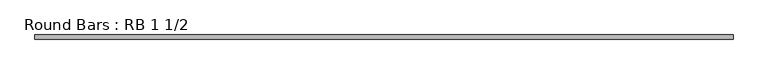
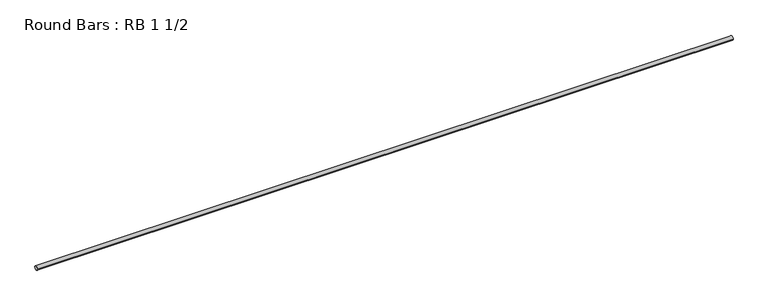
"""IFC4 building model written with IfcOpenShell, lengths in millimetres: member geometry, Round Bars : RB 1 1/2."""

from ifc_helpers import new_model, si_unit, point, frame, origin, origin_2d, place, context, project, spatial, circle_curve, trimmed, segment, composite_curve, outline, extrude, source, transform, mapped, element, save


def round_bars_rb_1_1_2_32fb0a82(model_context):
    return source(origin(), model_context, "Body", "SweptSolid", [
        extrude(outline(composite_curve([segment(trimmed(circle_curve(origin_2d(), 19.05), [point((19.05, 0.0))], [point((-19.05, 0.0))], False, "CARTESIAN"), True, "CONTINUOUS"), segment(trimmed(circle_curve(origin_2d(), 19.05), [point((-19.05, 0.0))], [point((19.05, 0.0))], False, "CARTESIAN"), True, "CONTINUOUS")], self_intersect=False)), frame((-3117.488011, 0.0, 0.0), z_axis=(1.0, 0.0, 0.0), x_axis=(0.0, 1.0, 0.0)), (0.0, 0.0, 1.0), 6472.6090094),
    ])


if __name__ == "__main__":
    model = new_model("IFC4")
    model_context = context("Model", 3, world=origin())
    ifc_project = project(units=[si_unit("LENGTHUNIT", "METRE", prefix="MILLI")], contexts=[model_context])
    site = spatial("IfcSite", under=ifc_project)
    building = spatial("IfcBuilding", under=site)
    placement = place(None, origin())
    round_bars_rb_1_1_2_shape = round_bars_rb_1_1_2_32fb0a82(model_context)
    element("IfcMember", 1, ObjectType="Round Bars : RB 1 1/2", at=placement, inside=building, context=model_context, shape_type="MappedRepresentation", body=[
        mapped(round_bars_rb_1_1_2_shape, transform((0.0, 0.0, 0.0), x_axis=(1.0, 0.0, 0.0), y_axis=(0.0, 1.0, 0.0), z_axis=(0.0, 0.0, 1.0))),
    ])
    save(model, "model.ifc")
